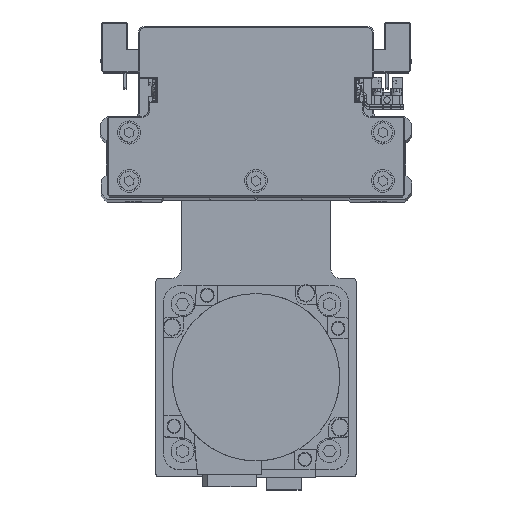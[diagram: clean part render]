
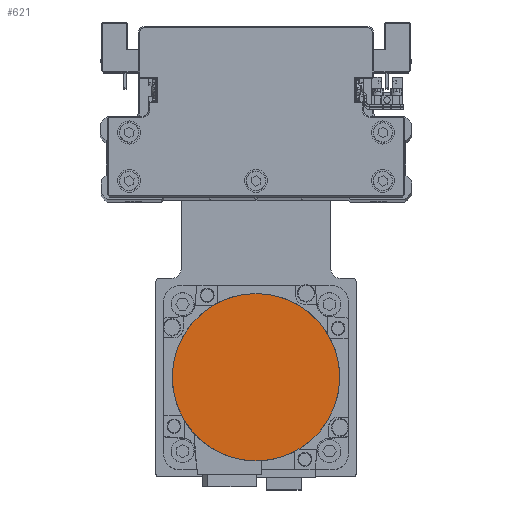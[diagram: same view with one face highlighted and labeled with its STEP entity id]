
A CAD part, top view. The second image highlights one B-rep face of the part: STEP entity #621.
In plain terms, the highlighted planar face has unit normal (0, 0, 1) as drawn and (0, 0, -1) by its records, which use the part's own axes.
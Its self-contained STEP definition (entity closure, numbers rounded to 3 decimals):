
#235 = EDGE_CURVE ( 'NONE', #22382, #35928, #33275, .T. ) ;
#621 = ADVANCED_FACE ( 'NONE', ( #22895 ), #35173, .F. ) ;
#1405 = ORIENTED_EDGE ( 'NONE', *, *, #19359, .F. ) ;
#1824 = CIRCLE ( 'NONE', #38776, 36.3 ) ;
#1838 = EDGE_LOOP ( 'NONE', ( #1405, #30107 ) ) ;
#2594 = DIRECTION ( 'NONE',  ( 0., 1., 0. ) ) ;
#4162 = DIRECTION ( 'NONE',  ( 0., -1., 0. ) ) ;
#7518 = CARTESIAN_POINT ( 'NONE',  ( 0., 0., -122.2 ) ) ;
#14688 = CARTESIAN_POINT ( 'NONE',  ( 0., -36.3, -122.2 ) ) ;
#15895 = AXIS2_PLACEMENT_3D ( 'NONE', #19559, #31848, #4162 ) ;
#18009 = CARTESIAN_POINT ( 'NONE',  ( 0., 0., -122.2 ) ) ;
#19359 = EDGE_CURVE ( 'NONE', #35928, #22382, #1824, .T. ) ;
#19559 = CARTESIAN_POINT ( 'NONE',  ( 0., 0., -122.2 ) ) ;
#19861 = DIRECTION ( 'NONE',  ( 0., 0., 1. ) ) ;
#21093 = AXIS2_PLACEMENT_3D ( 'NONE', #7518, #19861, #32153 ) ;
#22382 = VERTEX_POINT ( 'NONE', #14688 ) ;
#22895 = FACE_OUTER_BOUND ( 'NONE', #1838, .T. ) ;
#30107 = ORIENTED_EDGE ( 'NONE', *, *, #235, .F. ) ;
#30305 = DIRECTION ( 'NONE',  ( 0., 0., 1. ) ) ;
#31848 = DIRECTION ( 'NONE',  ( 0., 0., 1. ) ) ;
#32153 = DIRECTION ( 'NONE',  ( 1., 0., 0. ) ) ;
#33275 = CIRCLE ( 'NONE', #15895, 36.3 ) ;
#33820 = CARTESIAN_POINT ( 'NONE',  ( 0., 36.3, -122.2 ) ) ;
#35173 = PLANE ( 'NONE',  #21093 ) ;
#35928 = VERTEX_POINT ( 'NONE', #33820 ) ;
#38776 = AXIS2_PLACEMENT_3D ( 'NONE', #18009, #30305, #2594 ) ;
